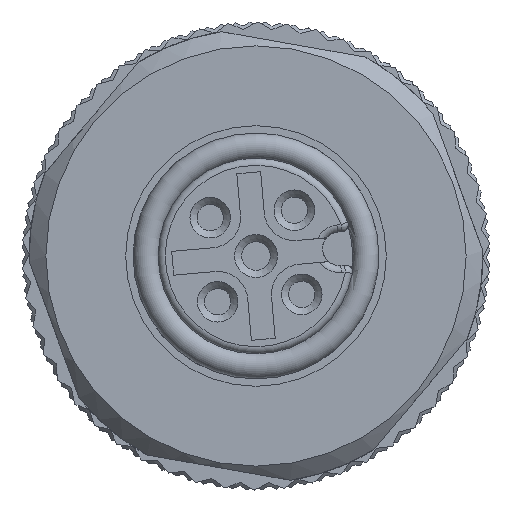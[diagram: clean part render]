
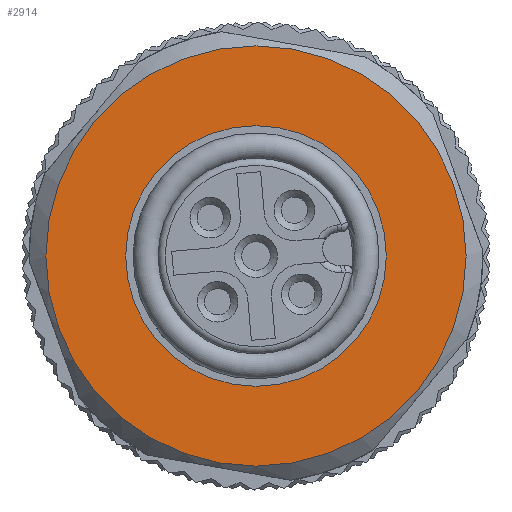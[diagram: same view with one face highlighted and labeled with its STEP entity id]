
A CAD part, left-side view. The second image highlights one B-rep face of the part: STEP entity #2914.
In plain terms, the highlighted planar face has unit normal (-1, 0, 0).
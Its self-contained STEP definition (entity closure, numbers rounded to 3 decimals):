
#269=PLANE('',#11308);
#451=FACE_BOUND('',#4036,.T.);
#452=FACE_BOUND('',#4037,.T.);
#2914=ADVANCED_FACE('',(#451,#452),#269,.T.);
#4036=EDGE_LOOP('',(#6380));
#4037=EDGE_LOOP('',(#6381));
#6380=ORIENTED_EDGE('',*,*,#9699,.T.);
#6381=ORIENTED_EDGE('',*,*,#9700,.F.);
#8341=VERTEX_POINT('',#17174);
#8342=VERTEX_POINT('',#17177);
#9699=EDGE_CURVE('',#8341,#8341,#10582,.T.);
#9700=EDGE_CURVE('',#8342,#8342,#10583,.T.);
#10582=CIRCLE('',#11305,5.459);
#10583=CIRCLE('',#11307,8.8);
#11305=AXIS2_PLACEMENT_3D('',#17173,#13323,#13324);
#11307=AXIS2_PLACEMENT_3D('',#17176,#13327,#13328);
#11308=AXIS2_PLACEMENT_3D('',#17178,#13329,#13330);
#13323=DIRECTION('',(1.,0.,0.));
#13324=DIRECTION('',(0.,-0.643,0.766));
#13327=DIRECTION('',(1.,0.,0.));
#13328=DIRECTION('',(0.,-0.643,0.766));
#13329=DIRECTION('',(-1.,0.,0.));
#13330=DIRECTION('',(0.,0.643,-0.766));
#17173=CARTESIAN_POINT('',(-12.2,0.,0.));
#17174=CARTESIAN_POINT('',(-12.2,-3.509,4.181));
#17176=CARTESIAN_POINT('',(-12.2,0.,0.));
#17177=CARTESIAN_POINT('',(-12.2,-5.657,6.741));
#17178=CARTESIAN_POINT('',(-12.2,5.657,-6.741));
